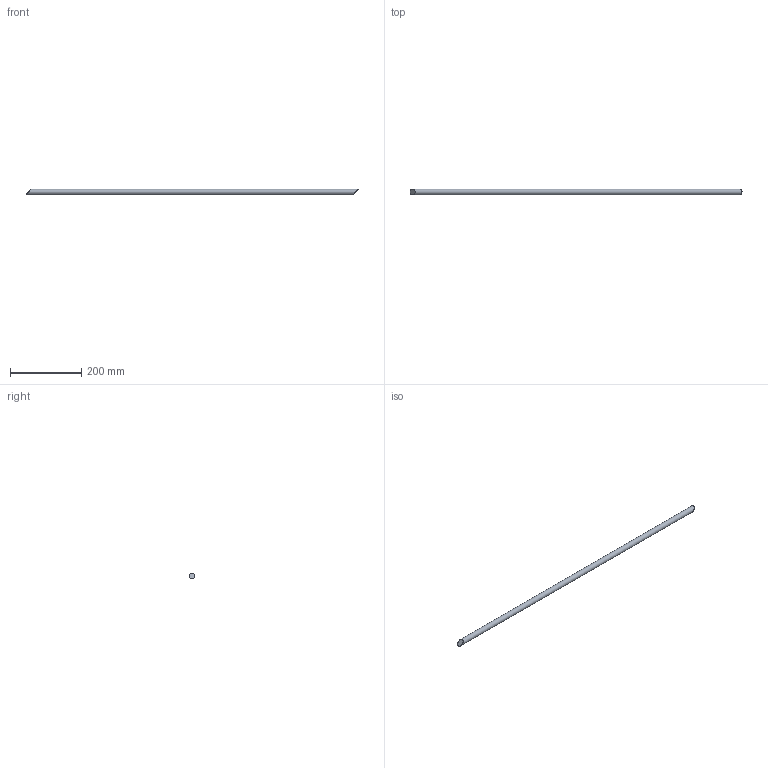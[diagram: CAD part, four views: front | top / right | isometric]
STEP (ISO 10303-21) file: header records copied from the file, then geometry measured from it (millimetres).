
FILE_DESCRIPTION(/* description */ (''),/* implementation_level */ '2;1');
FILE_NAME(/* name */ 'Pos161-Massieve as 16-S235JRG2-24st',/* time_stamp */ '2024-08-06T13:37:44+02:00',/* author */ (''),/* organization */ (''),/* preprocessor_version */ 'ST-DEVELOPER v16.5',/* originating_system */ 'HiCAD 2024 2901.2 Build 361',/* authorisation */ '');
FILE_SCHEMA (('AUTOMOTIVE_DESIGN { 1 0 10303 214 1 1 1 1 }'));
Length unit declared in the file: millimetre
Products named in the file (1): Pos161-Massieve as 16-S235JRG2-24st
Bounding box: 930.4 x 16 x 16 mm (x, y, z)
Volume: 184167.7 mm3; surface area: 46583.4 mm2
Topology: 1 solids, 1 shells, 3 faces, 3 edges, 2 vertices
Faces by surface type: plane 2, cylinder 1
Full cylindrical faces by diameter (mm): 16 x1
Entity records: 92 total; most frequent: DIRECTION 10, CARTESIAN_POINT 7, PRESENTATION_STYLE_ASSIGNMENT 5, COLOUR_RGB 5, AXIS2_PLACEMENT_3D 5, DRAUGHTING_PRE_DEFINED_CURVE_FONT 4, CURVE_STYLE 4, OVER_RIDING_STYLED_ITEM 4
